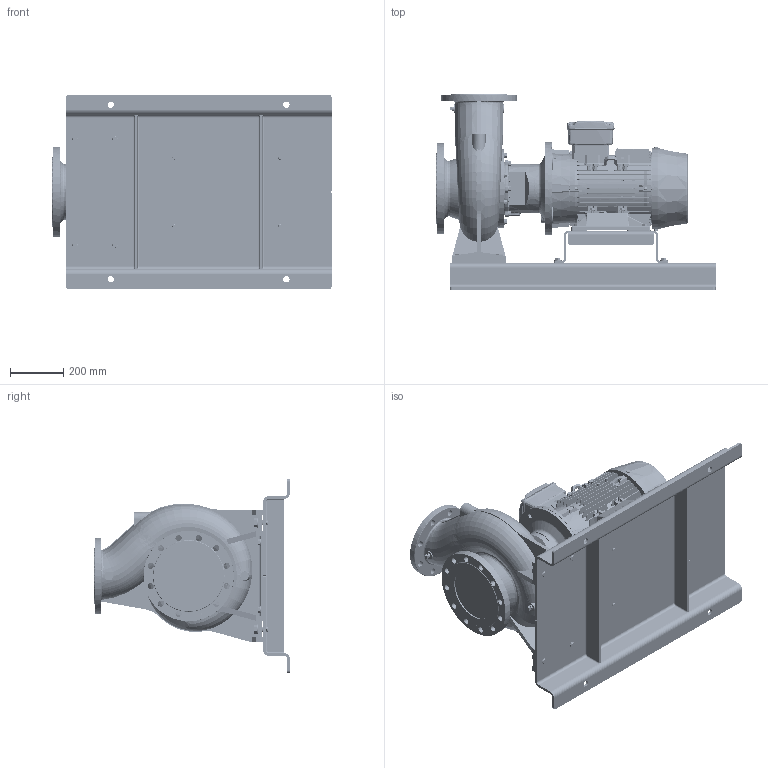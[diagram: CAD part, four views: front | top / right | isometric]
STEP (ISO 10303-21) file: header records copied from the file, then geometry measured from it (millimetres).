
FILE_DESCRIPTION (( 'STEP AP214' ), '1' );
FILE_NAME ('GSD4 150-200_11.0_(160ML)_W21_BP.STEP', '2026-05-08T01:16:22', ( '' ), ( '' ), 'SwSTEP 2.0', 'SolidWorks 2024', '' );
FILE_SCHEMA (( 'AUTOMOTIVE_DESIGN' ));
Length unit declared in the file: millimetre
Products named in the file (13): Parametric Flat Washer_M20; Parametric bolt and washer_SFT-A403B; Parametric bolt_SFT-A403B; Parametric Flat Washer_M12; GSD4 150-200_11.0_(160ML)_W21_BP; Parametric bolt and washer_SFT-A297B; 160M_L_ALIE3_W21T_B35; 150-200-160M_L_ﾃﾞﾌｫﾙﾄ; Parametric bolt_SFT-A303B; Parametric bolt_SFT-A297B; Parametric bolt and washer_SFT-A303B; N9S5 GSDA-952 F1-1832966-00; CGS11-5255
Assembly tree (22 placements, depth 3):
  GSD4 150-200_11.0_(160ML)_W21_BP
    150-200-160M_L_ﾃﾞﾌｫﾙﾄ
    N9S5 GSDA-952 F1-1832966-00
    CGS11-5255
    Parametric bolt and washer_SFT-A403B  x4
      Parametric bolt_SFT-A403B
      Parametric Flat Washer_M20
    Parametric bolt and washer_SFT-A297B  x4
      Parametric bolt_SFT-A297B
      Parametric Flat Washer_M12
    Parametric bolt and washer_SFT-A303B  x4
      Parametric bolt_SFT-A303B
      Parametric Flat Washer_M12
    160M_L_ALIE3_W21T_B35
Bounding box: 1050 x 735 x 730 mm (x, y, z)
Volume: 82026751.7 mm3; surface area: 5929138.6 mm2
Topology: 64 solids, 70 shells, 6480 faces, 16721 edges, 10805 vertices
Faces by surface type: plane 3799, cylinder 1365, cone 603, bspline 468, torus 229, sphere 16
Entity records: 254540 total; most frequent: CARTESIAN_POINT 116179, ORIENTED_EDGE 30310, DIRECTION 25645, EDGE_CURVE 15155, VERTEX_POINT 9800, VECTOR 9601, LINE 9601, AXIS2_PLACEMENT_3D 8022
